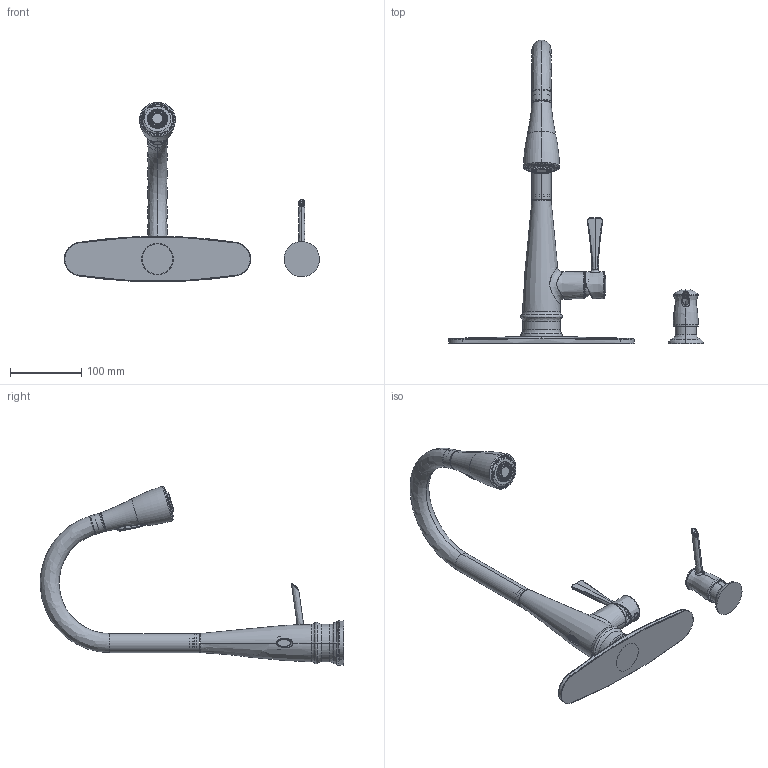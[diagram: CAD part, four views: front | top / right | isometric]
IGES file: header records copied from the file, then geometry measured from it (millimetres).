
Start section:  PTC IGES file: sku_87205ewseries.igs
Global section: file name: sku_87205ewseries.igs; native system: Creo Parametric by PTC Inc.; preprocessor: 2021184; author: mbrattol; organization: Unknown; date: 20210908.091202; units: inch
Bounding box: 359.24 x 427.45 x 252.84 mm (x, y, z)
Surface area: 225187.3 mm2 (no closed solid volume)
Topology: 0 solids, 0 shells, 5796 faces, 31666 edges, 31658 vertices
Faces by surface type: bspline 4387, revolution 1378, extrusion 31
